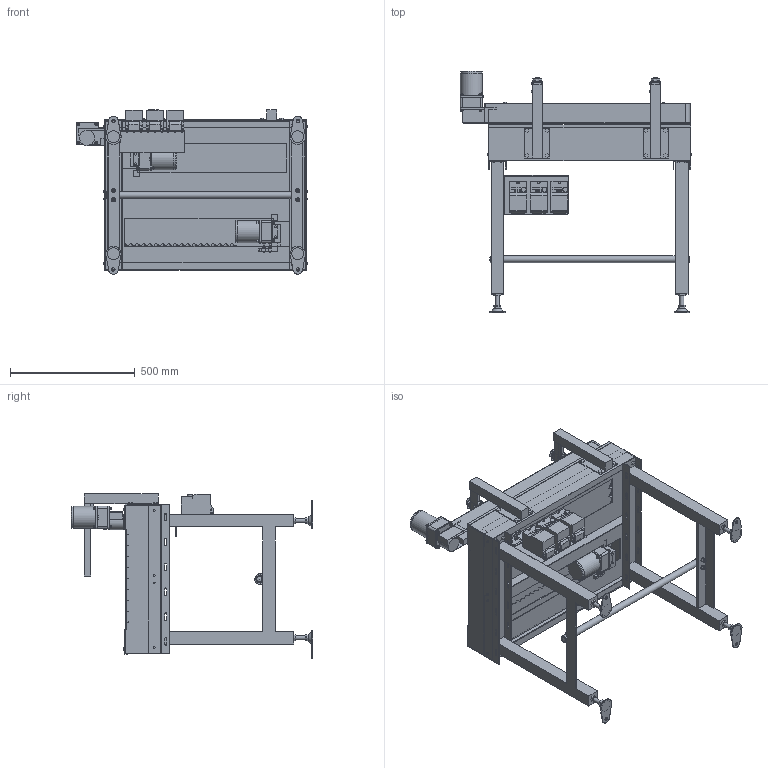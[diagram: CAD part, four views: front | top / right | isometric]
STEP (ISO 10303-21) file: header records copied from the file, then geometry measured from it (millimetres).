
FILE_DESCRIPTION( (''), '2;1');
FILE_NAME ('WEB-SGA-304x3-400-L-IVH-15-D.stp','2026-09-19T10:38:02',(''),(''),'spGate 21.9.5 (****-****-****-****)','','');
FILE_SCHEMA (('AUTOMOTIVE_DESIGN'));
Length unit declared in the file: millimetre
Products named in the file (91): WEB-SGA-304x3-400-L-IVH-15-D; TEMP_X_T-prt0; TEMP_X_T-prt1; TEMP_X_T-prt2; TEMP_X_T-prt3; TEMP_X_T-prt4; TEMP_X_T-prt5; TEMP_X_T-prt6; TEMP_X_T-prt7; TEMP_X_T-prt8; TEMP_X_T-prt9; TEMP_X_T-prt10; TEMP_X_T-prt11; TEMP_X_T-prt12; TEMP_X_T-prt13; TEMP_X_T-prt14; TEMP_X_T-prt15; TEMP_X_T-prt16; TEMP_X_T-prt17; TEMP_X_T-prt18; TEMP_X_T-prt19; TEMP_X_T-prt20; TEMP_X_T-prt21; TEMP_X_T-prt22; TEMP_X_T-prt23; TEMP_X_T-prt24; TEMP_X_T-prt25; TEMP_X_T-prt26; TEMP_X_T-prt27; TEMP_X_T-prt28; TEMP_X_T-prt29; TEMP_X_T-prt30; TEMP_X_T-prt31; TEMP_X_T-prt32; TEMP_X_T-prt33; TEMP_X_T-prt34; TEMP_X_T-prt35; TEMP_X_T-prt36; TEMP_X_T-prt37; TEMP_X_T-prt38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
Assembly tree (90 placements, depth 2):
  WEB-SGA-304x3-400-L-IVH-15-D
    TEMP_X_T-prt0
    TEMP_X_T-prt1
    TEMP_X_T-prt2
    TEMP_X_T-prt3
    TEMP_X_T-prt4
    TEMP_X_T-prt5
    TEMP_X_T-prt6
    TEMP_X_T-prt7
    TEMP_X_T-prt8
    TEMP_X_T-prt9
    TEMP_X_T-prt10
    TEMP_X_T-prt11
    TEMP_X_T-prt12
    TEMP_X_T-prt13
    TEMP_X_T-prt14
    TEMP_X_T-prt15
    TEMP_X_T-prt16
    TEMP_X_T-prt17
    TEMP_X_T-prt18
    TEMP_X_T-prt19
    TEMP_X_T-prt20
    TEMP_X_T-prt21
    TEMP_X_T-prt22
    TEMP_X_T-prt23
    TEMP_X_T-prt24
    TEMP_X_T-prt25
    TEMP_X_T-prt26
    TEMP_X_T-prt27
    TEMP_X_T-prt28
    TEMP_X_T-prt29
    TEMP_X_T-prt30
    TEMP_X_T-prt31
    TEMP_X_T-prt32
    TEMP_X_T-prt33
    TEMP_X_T-prt34
    TEMP_X_T-prt35
    TEMP_X_T-prt36
    TEMP_X_T-prt37
    TEMP_X_T-prt38
    TEMP_X_T-prt39
    TEMP_X_T-prt40
    TEMP_X_T-prt41
    TEMP_X_T-prt42
    TEMP_X_T-prt43
    TEMP_X_T-prt44
    TEMP_X_T-prt45
    TEMP_X_T-prt46
    TEMP_X_T-prt47
    TEMP_X_T-prt48
    TEMP_X_T-prt49
    TEMP_X_T-prt50
    TEMP_X_T-prt51
    TEMP_X_T-prt52
    TEMP_X_T-prt53
    TEMP_X_T-prt54
    TEMP_X_T-prt55
    TEMP_X_T-prt56
    TEMP_X_T-prt57
    TEMP_X_T-prt58
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Bounding box: 930.8 x 968.4 x 660 mm (x, y, z)
Volume: 24370869.4 mm3; surface area: 5499201.2 mm2
Topology: 90 solids, 91 shells, 2941 faces, 7609 edges, 5052 vertices
Faces by surface type: plane 2205, cylinder 514, bspline 214, sphere 8
Full cylindrical faces by diameter (mm): 2 x3, 3.3 x9, 4 x18, 5 x17, 5.5 x3, 6 x34, 6.5 x24, 6.6 x12, 7 x4, 8 x10, 8.49 x3, 9 x8, 10 x12, 10.5 x1, 11.5 x2, 12 x3, 12.2 x2, 12.5 x12, 13 x4, 16 x10, 17 x4, 20 x4, 22 x1, 27.2 x1, 28 x2, 36 x3, 40 x4, 50 x2, 83 x3, 84 x3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
Entity records: 157258 total; most frequent: CARTESIAN_POINT 22102, ORIENTED_EDGE 15174, DIRECTION 14505, COLOUR_RGB 10618, PRESENTATION_STYLE_ASSIGNMENT 10618, STYLED_ITEM 10618, EDGE_CURVE 7587, DRAUGHTING_PRE_DEFINED_CURVE_FONT 7587
